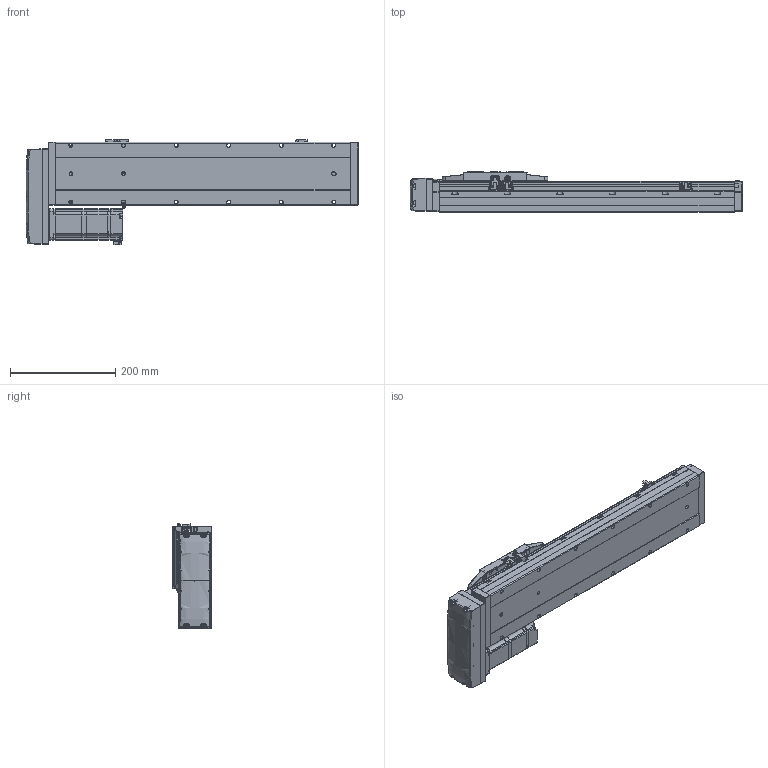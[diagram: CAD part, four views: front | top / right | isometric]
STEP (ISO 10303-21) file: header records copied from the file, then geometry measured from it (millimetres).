
FILE_DESCRIPTION (( 'STEP AP214' ), '1' );
FILE_NAME ('CTH12-L10-S350-BR-C40（简）.STEP', '2023-02-04T07:08:19', ( '' ), ( '' ), 'SwSTEP 2.0', 'SolidWorks 2018', '' );
FILE_SCHEMA (( 'AUTOMOTIVE_DESIGN' ));
Length unit declared in the file: millimetre
Products named in the file (24): AC60_Valor predeterminado; 内六角圆柱头螺钉M3-1; 嫖萇羲壽郪磁1; hex nuts, style 1-grades ab gb_GB_FASTENER_NUT_SNAB1 M3-N; CTH12侧装连接板（标准）简; 蚐郲; 内六角圆柱头螺钉M3-2; CTH12-BL_body_4; CTH12賑怢ㄗ潠ㄘ; CTH12耜蚾裔; CTH嫖萇羲壽假蚾啣; CTH12; CTH12底座-L561简（350行程）; CTH400W假蚾啣; CTH12賑怢郪磁; 内六角圆柱头螺钉M3; 嫖萇羲壽郪磁2; 湮賑怢  裔赽-1(CTH12)賑怢; CTH400W垫板（3个厚）; CTH12_body_3; CTH12覜茼え; CTH12-L10-S350-BR-C40（简）; M5蹟隊; PM-Y45
Assembly tree (44 placements, depth 4):
  CTH12-L10-S350-BR-C40（简）
    CTH12底座-L561简（350行程）
    蚐郲  x2
    CTH12_body_3
    CTH12-BL_body_4
    CTH12侧装连接板（标准）简
    CTH12耜蚾裔
    CTH12賑怢郪磁
      CTH12
        湮賑怢  裔赽-1(CTH12)賑怢
        CTH12賑怢ㄗ潠ㄘ
    CTH12覜茼え
    嫖萇羲壽郪磁1  x2
      CTH嫖萇羲壽假蚾啣
      PM-Y45
      内六角圆柱头螺钉M3-2
      内六角圆柱头螺钉M3-1
      hex nuts, style 1-grades ab gb_GB_FASTENER_NUT_SNAB1 M3-N
    嫖萇羲壽郪磁2
      CTH嫖萇羲壽假蚾啣
      PM-Y45
      内六角圆柱头螺钉M3-1  x2
      内六角圆柱头螺钉M3-2  x2
      hex nuts, style 1-grades ab gb_GB_FASTENER_NUT_SNAB1 M3-N  x2
    CTH400W垫板（3个厚）
    AC60_Valor predeterminado
    内六角圆柱头螺钉M3  x6
    M5蹟隊  x4
    CTH400W假蚾啣
Bounding box: 631.5 x 76 x 201.06 mm (x, y, z)
Volume: 4681260.2 mm3; surface area: 516234.9 mm2
Topology: 47 solids, 48 shells, 2702 faces, 6881 edges, 4397 vertices
Faces by surface type: plane 1487, cylinder 762, cone 307, bspline 94, torus 52
Entity records: 77509 total; most frequent: CARTESIAN_POINT 21102, ORIENTED_EDGE 10942, DIRECTION 10626, EDGE_CURVE 5471, AXIS2_PLACEMENT_3D 3584, VERTEX_POINT 3501, LINE 3458, VECTOR 3458
